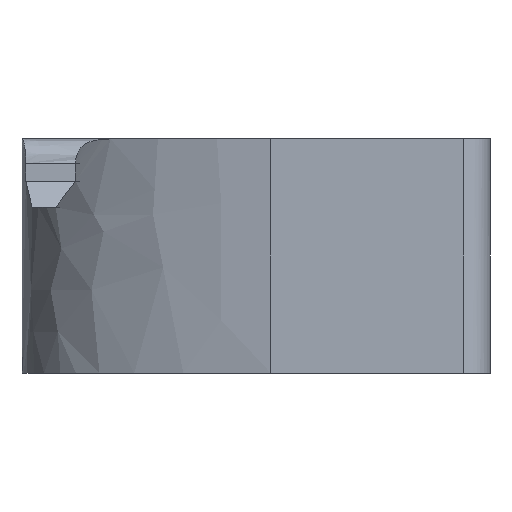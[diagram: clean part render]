
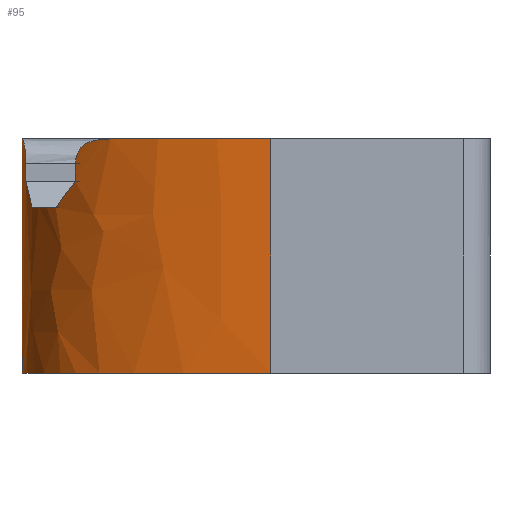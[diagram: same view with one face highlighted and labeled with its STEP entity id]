
A CAD part, left-side view. The second image highlights one B-rep face of the part: STEP entity #95.
In plain terms, the highlighted free-form (B-spline) face has degree [3, 1] with [4, 2] control points.
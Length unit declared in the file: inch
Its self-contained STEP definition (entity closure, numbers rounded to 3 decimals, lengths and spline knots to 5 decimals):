
#95=ADVANCED_FACE('',(#199),#200,.F.);
#199=FACE_OUTER_BOUND('',#459,.T.);
#200=B_SPLINE_SURFACE_WITH_KNOTS('',3,1,((#460,#461),(#462,#463),(#464,#465),(#466,#467)),.UNSPECIFIED.,.F.,.F.,.F.,(4,4),(2,2),(-1.0,-0.0),(0.0,0.81048),.UNSPECIFIED.);
#459=EDGE_LOOP('',(#763,#764,#765,#766,#767,#768,#769,#770,#771,#772,#773,#774));
#460=CARTESIAN_POINT('',(0.98241,-0.00001,1.17414));
#461=CARTESIAN_POINT('',(0.98241,-0.00001,0.36366));
#462=CARTESIAN_POINT('',(0.71936,-0.00001,1.17414));
#463=CARTESIAN_POINT('',(0.71936,-0.00001,0.36366));
#464=CARTESIAN_POINT('',(0.68795,-0.38082,1.17414));
#465=CARTESIAN_POINT('',(0.68795,-0.38082,0.36366));
#466=CARTESIAN_POINT('',(0.68795,-0.4515,1.17414));
#467=CARTESIAN_POINT('',(0.68795,-0.4515,0.36366));
#763=ORIENTED_EDGE('',*,*,#958,.F.);
#764=ORIENTED_EDGE('',*,*,#914,.F.);
#765=ORIENTED_EDGE('',*,*,#992,.F.);
#766=ORIENTED_EDGE('',*,*,#993,.F.);
#767=ORIENTED_EDGE('',*,*,#994,.F.);
#768=ORIENTED_EDGE('',*,*,#995,.F.);
#769=ORIENTED_EDGE('',*,*,#996,.F.);
#770=ORIENTED_EDGE('',*,*,#997,.F.);
#771=ORIENTED_EDGE('',*,*,#976,.F.);
#772=ORIENTED_EDGE('',*,*,#947,.F.);
#773=ORIENTED_EDGE('',*,*,#998,.F.);
#774=ORIENTED_EDGE('',*,*,#999,.F.);
#914=EDGE_CURVE('',#1042,#1044,#1045,.T.);
#947=EDGE_CURVE('',#1100,#1101,#1102,.T.);
#958=EDGE_CURVE('',#1044,#1119,#1120,.T.);
#976=EDGE_CURVE('',#1101,#1145,#1146,.T.);
#992=EDGE_CURVE('',#1167,#1042,#1168,.T.);
#993=EDGE_CURVE('',#1169,#1167,#1170,.T.);
#994=EDGE_CURVE('',#1171,#1169,#1172,.T.);
#995=EDGE_CURVE('',#1173,#1171,#1174,.T.);
#996=EDGE_CURVE('',#1175,#1173,#1176,.T.);
#997=EDGE_CURVE('',#1145,#1175,#1177,.T.);
#998=EDGE_CURVE('',#1178,#1100,#1179,.T.);
#999=EDGE_CURVE('',#1119,#1178,#1180,.T.);
#1042=VERTEX_POINT('',#1232);
#1044=VERTEX_POINT('',#1235);
#1045=B_SPLINE_CURVE_WITH_KNOTS('',3,(#1236,#1237,#1238,#1239,#1240,#1241),.UNSPECIFIED.,.F.,.F.,(4,2,4),(0.0,0.40524,0.47371),.UNSPECIFIED.);
#1100=VERTEX_POINT('',#1370);
#1101=VERTEX_POINT('',#1371);
#1102=B_SPLINE_CURVE_WITH_KNOTS('',3,(#1372,#1373,#1374,#1375),.UNSPECIFIED.,.F.,.F.,(4,4),(0.0,0.15584),.UNSPECIFIED.);
#1119=VERTEX_POINT('',#1416);
#1120=B_SPLINE_CURVE_WITH_KNOTS('',3,(#1417,#1418,#1419,#1420),.UNSPECIFIED.,.F.,.F.,(4,4),(0.0,0.06858),.UNSPECIFIED.);
#1145=VERTEX_POINT('',#1508);
#1146=B_SPLINE_CURVE_WITH_KNOTS('',3,(#1509,#1510,#1511,#1512,#1513,#1514,#1515,#1516),.UNSPECIFIED.,.F.,.F.,(4,2,2,4),(0.0,0.0874,0.14442,0.20167),.UNSPECIFIED.);
#1167=VERTEX_POINT('',#1564);
#1168=B_SPLINE_CURVE_WITH_KNOTS('',3,(#1565,#1566,#1567,#1568),.UNSPECIFIED.,.F.,.F.,(4,4),(0.0,1.0),.UNSPECIFIED.);
#1169=VERTEX_POINT('',#1569);
#1170=B_SPLINE_CURVE_WITH_KNOTS('',3,(#1570,#1571,#1572,#1573,#1574,#1575),.UNSPECIFIED.,.F.,.F.,(4,2,4),(0.0,0.40524,0.47371),.UNSPECIFIED.);
#1171=VERTEX_POINT('',#1576);
#1172=B_SPLINE_CURVE_WITH_KNOTS('',3,(#1577,#1578,#1579,#1580,#1581,#1582,#1583,#1584),.UNSPECIFIED.,.F.,.F.,(4,2,2,4),(0.0,0.10845,0.27929,0.45128),.UNSPECIFIED.);
#1173=VERTEX_POINT('',#1585);
#1174=B_SPLINE_CURVE_WITH_KNOTS('',3,(#1586,#1587,#1588,#1589,#1590,#1591,#1592,#1593,#1594,#1595,#1596,#1597),.UNSPECIFIED.,.F.,.F.,(4,2,2,2,2,4),(0.0,0.01039,0.02046,0.03343,0.04884,0.07407),.UNSPECIFIED.);
#1175=VERTEX_POINT('',#1598);
#1176=B_SPLINE_CURVE_WITH_KNOTS('',3,(#1599,#1600,#1601,#1602),.UNSPECIFIED.,.F.,.F.,(4,4),(0.0,0.12866),.UNSPECIFIED.);
#1177=B_SPLINE_CURVE_WITH_KNOTS('',3,(#1603,#1604,#1605,#1606,#1607,#1608),.UNSPECIFIED.,.F.,.F.,(4,2,4),(0.0,0.09134,0.18148),.UNSPECIFIED.);
#1178=VERTEX_POINT('',#1609);
#1179=B_SPLINE_CURVE_WITH_KNOTS('',3,(#1610,#1611,#1612,#1613),.UNSPECIFIED.,.F.,.F.,(4,4),(0.0,0.12866),.UNSPECIFIED.);
#1180=B_SPLINE_CURVE_WITH_KNOTS('',3,(#1614,#1615,#1616,#1617,#1618,#1619,#1620,#1621,#1622,#1623,#1624,#1625),.UNSPECIFIED.,.F.,.F.,(4,2,2,2,2,4),(0.0,0.01767,0.03051,0.04317,0.05299,0.06315),.UNSPECIFIED.);
#1232=CARTESIAN_POINT('',(0.97502,-0.00011,0.75043));
#1235=CARTESIAN_POINT('',(0.97502,-0.00011,1.12565));
#1236=CARTESIAN_POINT('',(0.97502,-0.00011,0.70043));
#1237=CARTESIAN_POINT('',(0.97502,-0.00011,0.83551));
#1238=CARTESIAN_POINT('',(0.97502,-0.00011,0.97059));
#1239=CARTESIAN_POINT('',(0.97502,-0.00011,1.1285));
#1240=CARTESIAN_POINT('',(0.97502,-0.00011,1.15132));
#1241=CARTESIAN_POINT('',(0.97502,-0.00011,1.17414));
#1370=CARTESIAN_POINT('',(0.92649,-0.00627,1.05756));
#1371=CARTESIAN_POINT('',(0.8948,-0.01628,1.01628));
#1372=CARTESIAN_POINT('',(0.95692,-0.00125,1.09723));
#1373=CARTESIAN_POINT('',(0.92536,-0.00438,1.05609));
#1374=CARTESIAN_POINT('',(0.89407,-0.01364,1.01533));
#1375=CARTESIAN_POINT('',(0.86436,-0.03139,0.97661));
#1416=CARTESIAN_POINT('',(0.96504,-0.00058,1.12565));
#1417=CARTESIAN_POINT('',(0.98241,-0.00001,1.12565));
#1418=CARTESIAN_POINT('',(0.95955,-0.00001,1.12565));
#1419=CARTESIAN_POINT('',(0.93698,-0.00288,1.12565));
#1420=CARTESIAN_POINT('',(0.91504,-0.00928,1.12565));
#1508=CARTESIAN_POINT('',(0.83274,-0.05414,1.01628));
#1509=CARTESIAN_POINT('',(0.9448,-0.00276,1.01628));
#1510=CARTESIAN_POINT('',(0.91599,-0.0071,1.01628));
#1511=CARTESIAN_POINT('',(0.88899,-0.01661,1.01628));
#1512=CARTESIAN_POINT('',(0.84772,-0.04137,1.01628));
#1513=CARTESIAN_POINT('',(0.83285,-0.05312,1.01628));
#1514=CARTESIAN_POINT('',(0.8057,-0.07983,1.01628));
#1515=CARTESIAN_POINT('',(0.79356,-0.09465,1.01628));
#1516=CARTESIAN_POINT('',(0.78274,-0.11036,1.01628));
#1564=CARTESIAN_POINT('',(0.69096,-0.39891,0.75043));
#1565=CARTESIAN_POINT('',(0.68795,-0.4515,0.75043));
#1566=CARTESIAN_POINT('',(0.68795,-0.38082,0.75043));
#1567=CARTESIAN_POINT('',(0.71936,-0.00001,0.75043));
#1568=CARTESIAN_POINT('',(0.98241,-0.00001,0.75043));
#1569=CARTESIAN_POINT('',(0.69096,-0.39891,1.12565));
#1570=CARTESIAN_POINT('',(0.69096,-0.39891,1.17414));
#1571=CARTESIAN_POINT('',(0.69096,-0.39891,1.03906));
#1572=CARTESIAN_POINT('',(0.69096,-0.39891,0.90398));
#1573=CARTESIAN_POINT('',(0.69096,-0.39891,0.74608));
#1574=CARTESIAN_POINT('',(0.69096,-0.39891,0.72326));
#1575=CARTESIAN_POINT('',(0.69096,-0.39891,0.70043));
#1576=CARTESIAN_POINT('',(0.76327,-0.14189,1.12565));
#1577=CARTESIAN_POINT('',(0.81327,-0.07257,1.12565));
#1578=CARTESIAN_POINT('',(0.78832,-0.09873,1.12565));
#1579=CARTESIAN_POINT('',(0.76846,-0.12986,1.12565));
#1580=CARTESIAN_POINT('',(0.72773,-0.21358,1.12565));
#1581=CARTESIAN_POINT('',(0.7112,-0.2717,1.12565));
#1582=CARTESIAN_POINT('',(0.69064,-0.38375,1.12565));
#1583=CARTESIAN_POINT('',(0.68795,-0.43078,1.12565));
#1584=CARTESIAN_POINT('',(0.68795,-0.4515,1.12565));
#1585=CARTESIAN_POINT('',(0.80149,-0.08573,1.08622));
#1586=CARTESIAN_POINT('',(0.80149,-0.08573,1.08622));
#1587=CARTESIAN_POINT('',(0.80149,-0.08573,1.08968));
#1588=CARTESIAN_POINT('',(0.80115,-0.08612,1.09356));
#1589=CARTESIAN_POINT('',(0.79946,-0.08815,1.10126));
#1590=CARTESIAN_POINT('',(0.79822,-0.08965,1.10473));
#1591=CARTESIAN_POINT('',(0.79454,-0.09425,1.11178));
#1592=CARTESIAN_POINT('',(0.792,-0.09752,1.11485));
#1593=CARTESIAN_POINT('',(0.78601,-0.10561,1.12006));
#1594=CARTESIAN_POINT('',(0.78252,-0.11058,1.12189));
#1595=CARTESIAN_POINT('',(0.77372,-0.12385,1.12509));
#1596=CARTESIAN_POINT('',(0.76818,-0.13302,1.12565));
#1597=CARTESIAN_POINT('',(0.76327,-0.14189,1.12565));
#1598=CARTESIAN_POINT('',(0.80149,-0.08573,1.05756));
#1599=CARTESIAN_POINT('',(0.80149,-0.08573,1.00756));
#1600=CARTESIAN_POINT('',(0.80149,-0.08573,1.05045));
#1601=CARTESIAN_POINT('',(0.80149,-0.08573,1.09334));
#1602=CARTESIAN_POINT('',(0.80149,-0.08573,1.13622));
#1603=CARTESIAN_POINT('',(0.86291,-0.03226,0.97641));
#1604=CARTESIAN_POINT('',(0.84566,-0.04274,0.9992));
#1605=CARTESIAN_POINT('',(0.82917,-0.05597,1.02098));
#1606=CARTESIAN_POINT('',(0.79829,-0.08821,1.06178));
#1607=CARTESIAN_POINT('',(0.78417,-0.10685,1.08044));
#1608=CARTESIAN_POINT('',(0.77131,-0.12802,1.09743));
#1609=CARTESIAN_POINT('',(0.92649,-0.00627,1.08622));
#1610=CARTESIAN_POINT('',(0.92649,-0.00627,1.13622));
#1611=CARTESIAN_POINT('',(0.92649,-0.00627,1.09334));
#1612=CARTESIAN_POINT('',(0.92649,-0.00627,1.05045));
#1613=CARTESIAN_POINT('',(0.92649,-0.00627,1.00756));
#1614=CARTESIAN_POINT('',(0.96504,-0.00058,1.12565));
#1615=CARTESIAN_POINT('',(0.95916,-0.00096,1.12565));
#1616=CARTESIAN_POINT('',(0.95328,-0.00157,1.12482));
#1617=CARTESIAN_POINT('',(0.94395,-0.00285,1.12105));
#1618=CARTESIAN_POINT('',(0.94043,-0.00344,1.1188));
#1619=CARTESIAN_POINT('',(0.93445,-0.00454,1.1129));
#1620=CARTESIAN_POINT('',(0.93213,-0.00502,1.10944));
#1621=CARTESIAN_POINT('',(0.92908,-0.00568,1.10265));
#1622=CARTESIAN_POINT('',(0.92812,-0.0059,1.09952));
#1623=CARTESIAN_POINT('',(0.92681,-0.0062,1.09302));
#1624=CARTESIAN_POINT('',(0.92649,-0.00627,1.08958));
#1625=CARTESIAN_POINT('',(0.92649,-0.00627,1.08622));
